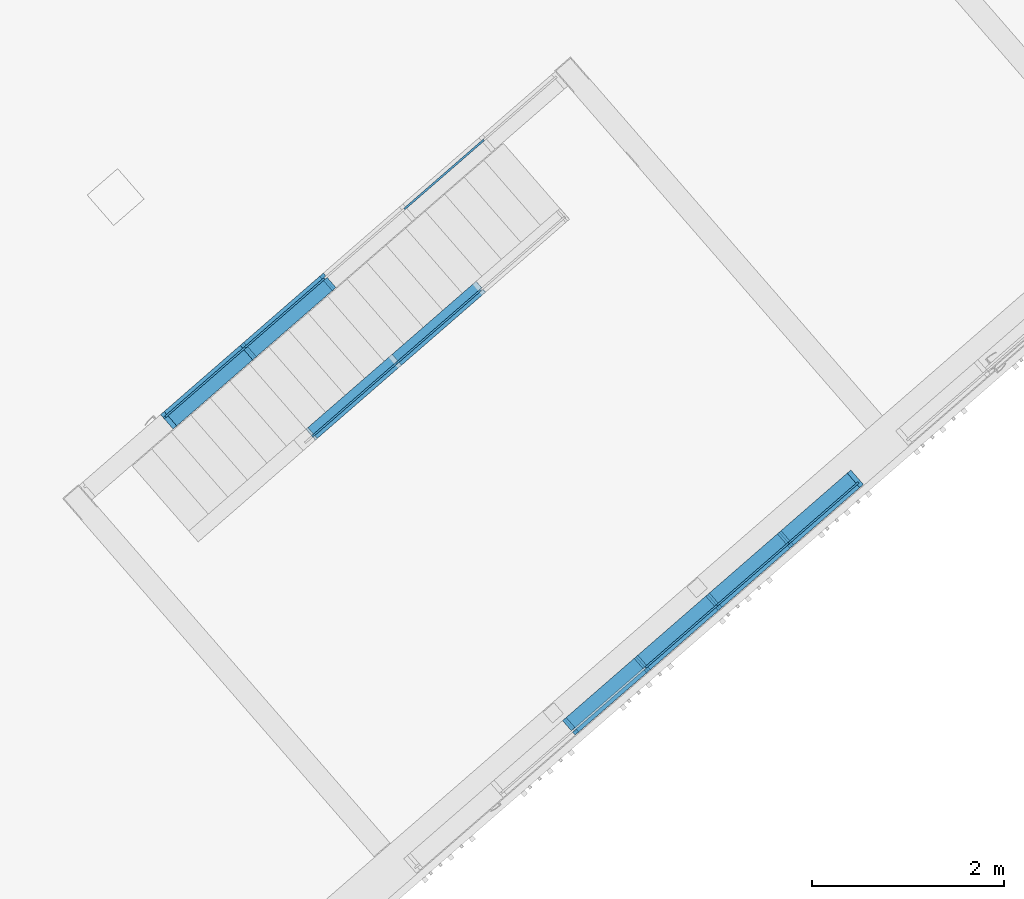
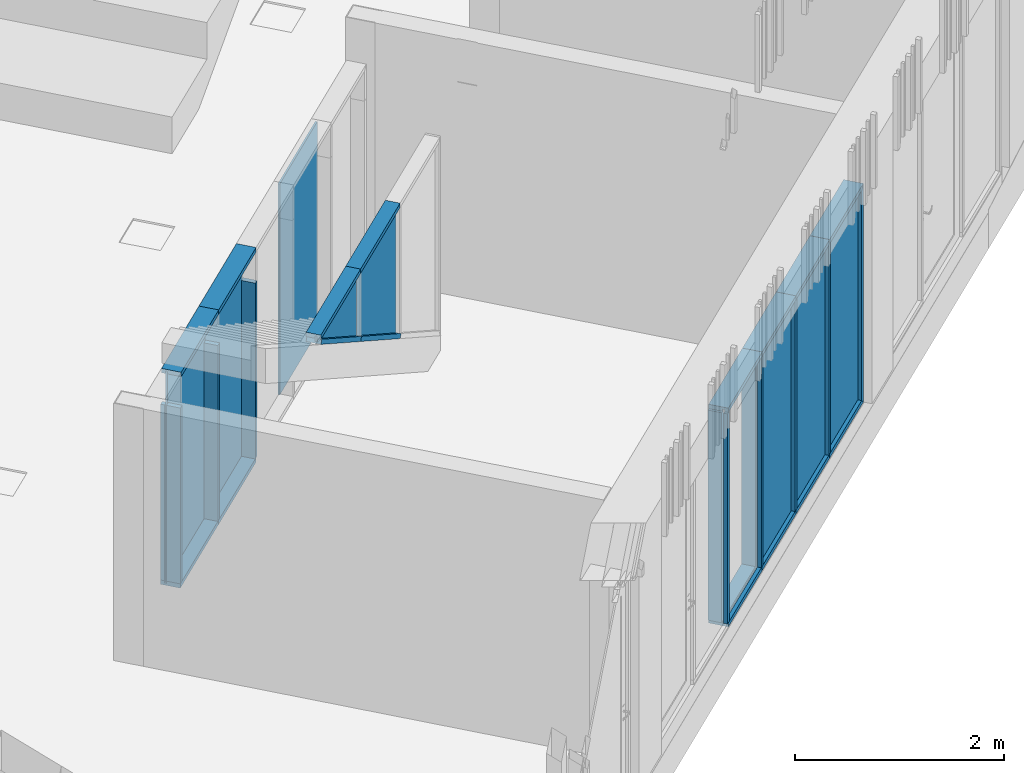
# One storey, part 8 of 124: 32 discrete accessories, 3 elements without a shape of their own.
"""IFC2X3 building model written with IfcOpenShell, lengths in millimetres."""

import ifcopenshell
import ifcopenshell.guid

model = None  # the IFC model being written
_history = None  # IfcOwnerHistory: only IFC2X3 demands one
_inside = {}  # id of a spatial element -> (the spatial element, [elements in it])
_under = {}  # id of a project, library or spatial element -> (it, [spatial elements below it])
_declared = {}  # id of a project -> (the project, [libraries it declares])
_typed = {}  # id of a type object -> (the type object, [elements of that type])
_made_of = {}  # id of a material, layer set ... -> (it, [elements and type objects made of it])


def new_model(schema):
    """Start an empty IFC model of exactly this schema.

    Asked for "IFC4X3", IfcOpenShell would pick the latest addendum, in which some entities
    have other attributes; the version numbers below select the first issue.
    IFC2X3 requires an IfcOwnerHistory on every rooted entity: one is made here for all.
    """
    global model, _history
    if schema == "IFC4X3":
        model = ifcopenshell.file(schema_version=(4, 3, 0, 0))
    else:
        model = ifcopenshell.file(schema=schema)
    _inside.clear()
    _under.clear()
    _declared.clear()
    _typed.clear()
    _made_of.clear()
    _history = None
    if model.schema == "IFC2X3":
        org = make("IfcOrganization", Name="unknown")
        user = make(
            "IfcPersonAndOrganization",
            ThePerson=make("IfcPerson", FamilyName="unknown"),
            TheOrganization=org,
        )
        app = make(
            "IfcApplication",
            ApplicationDeveloper=org,
            Version="unknown",
            ApplicationFullName="unknown",
            ApplicationIdentifier="unknown",
        )
        _history = make(
            "IfcOwnerHistory",
            OwningUser=user,
            OwningApplication=app,
            ChangeAction="ADDED",
            CreationDate=0,
        )
    return model


def make(cls, **values):
    """One entity of the class cls with the attributes given. An attribute that is None is left unset."""
    return model.create_entity(
        cls, **{name: value for name, value in values.items() if value is not None}
    )


def entity(cls, *values):
    """Any entity or typed value of the class cls, its attributes in the order of the schema. None: left unset."""
    e = model.create_entity(cls)
    for i, value in enumerate(values):
        if value is not None:
            e[i] = value
    return e


def rooted(cls, **values):
    """An entity with a GlobalId (a new one), such as an element, a storey or a relation."""
    return make(cls, GlobalId=ifcopenshell.guid.new(), OwnerHistory=_history, **values)


def si_unit(unit_type, name, prefix=None):
    """IfcSIUnit, for example si_unit("LENGTHUNIT", "METRE", prefix="MILLI")."""
    return make("IfcSIUnit", UnitType=unit_type, Prefix=prefix, Name=name)


def converted_unit(unit_type, name, factor, base, dimensions=None, offset=None):
    """IfcConversionBasedUnit, such as the inch: factor (a typed value) times the base unit."""
    return make(
        "IfcConversionBasedUnit"
        if offset is None
        else "IfcConversionBasedUnitWithOffset",
        ConversionOffset=offset,
        Dimensions=None
        if dimensions is None
        else entity("IfcDimensionalExponents", *dimensions),
        UnitType=unit_type,
        Name=name,
        ConversionFactor=make(
            "IfcMeasureWithUnit", ValueComponent=factor, UnitComponent=base
        ),
    )


def derived_unit(unit_type, elements):
    """IfcDerivedUnit: a product of units, each with its exponent."""
    return make(
        "IfcDerivedUnit",
        Elements=[
            make("IfcDerivedUnitElement", Unit=unit, Exponent=power)
            for unit, power in elements
        ],
        UnitType=unit_type,
    )


def money_unit(currency):
    """IfcMonetaryUnit."""
    return make("IfcMonetaryUnit", Currency=currency)


def assignment(units):
    """IfcUnitAssignment: the units of a project."""
    return None if units is None else make("IfcUnitAssignment", Units=units)


def point(xyz):
    """IfcCartesianPoint."""
    return None if xyz is None else make("IfcCartesianPoint", Coordinates=xyz)


def direction(xyz):
    """IfcDirection."""
    return None if xyz is None else make("IfcDirection", DirectionRatios=xyz)


def frame(location, z_axis=None, x_axis=None):
    """IfcAxis2Placement3D, a coordinate frame: its origin and axes. An axis left out is left unset."""
    return make(
        "IfcAxis2Placement3D",
        Location=point(location),
        Axis=direction(z_axis),
        RefDirection=direction(x_axis),
    )


def origin_with_axes():
    """The frame at (0, 0, 0) with the z axis (0, 0, 1) and the x axis (1, 0, 0) written out."""
    return frame((0.0, 0.0, 0.0), z_axis=(0.0, 0.0, 1.0), x_axis=(1.0, 0.0, 0.0))


def place(relative_to, where):
    """IfcLocalPlacement: puts the frame where relative to a parent placement (None: the world)."""
    return make(
        "IfcLocalPlacement", PlacementRelTo=relative_to, RelativePlacement=where
    )


def context(
    kind, dimensions, precision=None, world=None, true_north=None, identifier=None
):
    """IfcGeometricRepresentationContext, for example the 3D "Model" context."""
    return make(
        "IfcGeometricRepresentationContext",
        ContextIdentifier=identifier,
        ContextType=kind,
        CoordinateSpaceDimension=dimensions,
        Precision=precision,
        WorldCoordinateSystem=world,
        TrueNorth=true_north,
    )


def subcontext(parent, identifier, kind, view, scale=None):
    """IfcGeometricRepresentationSubContext, for example "Body" below "Model"."""
    return make(
        "IfcGeometricRepresentationSubContext",
        ContextIdentifier=identifier,
        ContextType=kind,
        ParentContext=parent,
        TargetScale=scale,
        TargetView=view,
    )


def project(units=None, contexts=None):
    """IfcProject with its units and contexts."""
    return rooted(
        "IfcProject",
        Name="project",
        RepresentationContexts=contexts,
        UnitsInContext=assignment(units),
    )


def spatial(cls, under=None, at=None, **own):
    """A site, building, storey or space (cls), placed at a placement, below another one or the project."""
    s = rooted(cls, ObjectPlacement=at, **own)
    if under is not None:
        _under.setdefault(under.id(), (under, []))[1].append(s)
    return s


def polyline(points):
    """IfcPolyline through the points."""
    return make("IfcPolyline", Points=[point(p) for p in points])


def outline(outer, holes=None, kind="AREA"):
    """IfcArbitraryClosedProfileDef: a profile drawn as a closed curve; with holes, ...WithVoids."""
    if holes is None:
        return make("IfcArbitraryClosedProfileDef", ProfileType=kind, OuterCurve=outer)
    return make(
        "IfcArbitraryProfileDefWithVoids",
        ProfileType=kind,
        OuterCurve=outer,
        InnerCurves=holes,
    )


def extrude(swept, where, along, depth):
    """IfcExtrudedAreaSolid: the profile swept, set in the frame where, extruded along a direction by depth."""
    return make(
        "IfcExtrudedAreaSolid",
        SweptArea=swept,
        Position=where,
        ExtrudedDirection=direction(along),
        Depth=depth,
    )


def clip(a, b, op="DIFFERENCE"):
    """IfcBooleanClippingResult: the solid a cut by the half space b."""
    return make(
        "IfcBooleanClippingResult", Operator=op, FirstOperand=a, SecondOperand=b
    )


def halfspace(plane, agree):
    """IfcHalfSpaceSolid: all space on one side of the plane z = 0 of the frame plane."""
    return make(
        "IfcHalfSpaceSolid",
        BaseSurface=make("IfcPlane", Position=plane),
        AgreementFlag=agree,
    )


def shape(context_of_items, identifier, shape_type, items):
    """IfcShapeRepresentation: the items that make up one representation, for example the "Body"."""
    return make(
        "IfcShapeRepresentation",
        ContextOfItems=context_of_items,
        RepresentationIdentifier=identifier,
        RepresentationType=shape_type,
        Items=items,
    )


def material(Name=None, Category=None):
    """IfcMaterial."""
    return make("IfcMaterial", Name=Name, Category=Category)


def material_list(materials):
    """IfcMaterialList."""
    return make("IfcMaterialList", Materials=materials)


def made_of(thing, what):
    """Note that an element or type object is made of a material, layer set ...; save() writes the relation."""
    if what is not None:
        _made_of.setdefault(what.id(), (what, []))[1].append(thing)
    return thing


def type_object(cls, material=None, **own):
    """A type object (cls), such as IfcWallType, which elements share."""
    return made_of(rooted(cls, **own), material)


def element(
    cls,
    number,
    at=None,
    inside=None,
    cuts=None,
    type_object=None,
    material=None,
    context=None,
    identifier="Body",
    shape_type=None,
    held_by="IfcProductDefinitionShape",
    body=None,
    shapes=None,
    **own,
):
    """One element of the class cls, such as IfcWall. Its Tag is "e" and its number.

    at: its placement. inside: the storey or other place that contains it. cuts: it is an
    opening in that element (IfcRelVoidsElement). A single representation is given by context,
    identifier, shape_type and body (its items); several are given by shapes. held_by: the class
    of the entity that holds the representations. save() writes the other relations.
    """
    e = rooted(cls, Tag="e%d" % number, ObjectPlacement=at, **own)
    if body is not None:
        shapes = [shape(context, identifier, shape_type, body)]
    if shapes is not None:
        e.Representation = make(held_by, Representations=shapes)
    if inside is not None:
        _inside.setdefault(inside.id(), (inside, []))[1].append(e)
    if cuts is not None:
        rooted(
            "IfcRelVoidsElement", RelatingBuildingElement=cuts, RelatedOpeningElement=e
        )
    if type_object is not None:
        _typed.setdefault(type_object.id(), (type_object, []))[1].append(e)
    return made_of(e, material)


def aggregate(whole, parts):
    """IfcRelAggregates: a whole, such as a stair, and the parts it consists of."""
    return rooted("IfcRelAggregates", RelatingObject=whole, RelatedObjects=parts)


def save(model, path):
    """Write the relations noted so far, then the file.

    IfcRelAggregates (storeys below a building ...), IfcRelContainedInSpatialStructure (elements
    in a storey), IfcRelDefinesByType, IfcRelAssociatesMaterial and IfcRelDeclares: one each for
    every whole, place, type object, material and project.
    """
    for whole, parts in _under.values():
        aggregate(whole, parts)
    for where, things in _inside.values():
        rooted(
            "IfcRelContainedInSpatialStructure",
            RelatedElements=things,
            RelatingStructure=where,
        )
    for kind, things in _typed.values():
        rooted("IfcRelDefinesByType", RelatedObjects=things, RelatingType=kind)
    for what, things in _made_of.values():
        rooted("IfcRelAssociatesMaterial", RelatedObjects=things, RelatingMaterial=what)
    for by, libraries in _declared.values():
        rooted("IfcRelDeclares", RelatingContext=by, RelatedDefinitions=libraries)
    model.write(path)


model = new_model("IFC2X3")

# Units and contexts
model_context = context("Model", 3, precision=1e-05, world=origin_with_axes(), true_north=direction((0.0, 1.0)))
body_context = subcontext(model_context, "Body", "Model", "MODEL_VIEW")
ifc_project = project(units=[si_unit("LENGTHUNIT", "METRE", prefix="MILLI"), si_unit("AREAUNIT", "SQUARE_METRE"), si_unit("VOLUMEUNIT", "CUBIC_METRE"), converted_unit("PLANEANGLEUNIT", "DEGREE", entity("IfcPlaneAngleMeasure", 0.0174532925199), si_unit("PLANEANGLEUNIT", "RADIAN"), dimensions=[0, 0, 0, 0, 0, 0, 0]), si_unit("SOLIDANGLEUNIT", "STERADIAN"), money_unit("EUR"), converted_unit("TIMEUNIT", "Year", entity("IfcTimeMeasure", 31556926.0), si_unit("TIMEUNIT", "SECOND"), dimensions=[0, 0, 1, 0, 0, 0, 0]), si_unit("MASSUNIT", "GRAM", prefix="KILO"), si_unit("THERMODYNAMICTEMPERATUREUNIT", "DEGREE_CELSIUS"), si_unit("LUMINOUSINTENSITYUNIT", "LUMEN"), si_unit("ENERGYUNIT", "JOULE", prefix="MEGA"), derived_unit("THERMALCONDUCTANCEUNIT", [(si_unit("POWERUNIT", "WATT"), 1), (si_unit("LENGTHUNIT", "METRE"), -1), (si_unit("THERMODYNAMICTEMPERATUREUNIT", "KELVIN"), -1)]), derived_unit("SPECIFICHEATCAPACITYUNIT", [(si_unit("ENERGYUNIT", "JOULE"), 1), (si_unit("MASSUNIT", "GRAM", prefix="KILO"), -1), (si_unit("THERMODYNAMICTEMPERATUREUNIT", "KELVIN"), -1)]), derived_unit("MASSDENSITYUNIT", [(si_unit("MASSUNIT", "GRAM", prefix="KILO"), 1), (si_unit("VOLUMEUNIT", "CUBIC_METRE"), -1)])], contexts=[model_context])

# Site, building, storey
site_placement = place(None, origin_with_axes())
site = spatial("IfcSite", under=ifc_project, at=site_placement, Name="Site", CompositionType="ELEMENT")
building_placement = place(site_placement, origin_with_axes())
building = spatial("IfcBuilding", under=site, at=building_placement, Name="Building", CompositionType="ELEMENT")
storey_placement = place(building_placement, frame((0.0, 0.0, -1615.0), z_axis=(0.0, 0.0, 1.0), x_axis=(1.0, 0.0, 0.0)))
storey = spatial("IfcBuildingStorey", under=building, at=storey_placement, Name="0  korrus", CompositionType="ELEMENT", Elevation=-1615.0)

# Curtain wall, discrete accessories
curtain_wall_type_1 = type_object("IfcCurtainWallType", Name="KLF-04", PredefinedType="NOTDEFINED")
curtain_wall_1_placement = place(storey_placement, frame((162346.343492, 85970.7645105, 0.0), z_axis=(0.0, 0.0, 1.0), x_axis=(1.0, 0.0, 0.0)))
curtain_wall_1 = element("IfcCurtainWall", 1, at=curtain_wall_1_placement, inside=storey, type_object=curtain_wall_type_1, Name="Klaasfassaad")
discrete_accessory_type_1 = type_object("IfcDiscreteAccessoryType", Name="50 x 200")
discrete_accessory_1_placement = place(curtain_wall_1_placement, frame((-2615.07690297, -2273.23509377, 2550.00001132), z_axis=(0.754711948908, 0.65605630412, 0.0), x_axis=(0.0, 0.0, 1.0)))
discrete_accessory_1 = element("IfcDiscreteAccessory", 2, at=discrete_accessory_1_placement, type_object=discrete_accessory_type_1, Name="KLF-04 profiil", context=body_context, shape_type="SweptSolid", body=[
    extrude(outline(polyline([(-10.0, 25.0), (-10.0, 0.0), (10.0, 0.0), (10.0, 25.0), (-10.0, 25.0)])), frame((0.0, 0.0, 0.0), z_axis=(0.0, 0.0, 1.0), x_axis=(0.0, 1.0, 0.0)), (0.0, 0.0, 1.0), 990.0),
    extrude(outline(polyline([(-150.0, 50.0), (-150.0, 0.0), (-10.0, 0.0), (-10.0, 50.0), (-150.0, 50.0)])), frame((0.0, 0.0, 0.0), z_axis=(0.0, 0.0, 1.0), x_axis=(0.0, 1.0, 0.0)), (0.0, 0.0, 1.0), 990.0),
    extrude(outline(polyline([(50.0, 0.0), (50.0, 50.0), (10.0, 50.0), (10.0, 0.0), (50.0, 0.0)])), frame((0.0, 0.0, 0.0), z_axis=(0.0, 0.0, 1.0), x_axis=(0.0, 1.0, 0.0)), (0.0, 0.0, 1.0), 990.0),
])
discrete_accessory_2_placement = place(curtain_wall_1_placement, frame((-373.58241471, -324.747870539, 0.0), z_axis=(0.754711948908, 0.65605630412, 0.0), x_axis=(0.0, 0.0, 1.0)))
discrete_accessory_2 = element("IfcDiscreteAccessory", 3, at=discrete_accessory_2_placement, type_object=discrete_accessory_type_1, Name="KLF-04 profiil", context=body_context, shape_type="Clipping", body=[
    clip(extrude(outline(polyline([(-10.0, -25.0), (9.99999999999, -25.0), (10.0, 0.0), (-10.0, 0.0), (-10.0, -25.0)])), frame((0.0, 0.0, 0.0), z_axis=(0.0, 0.0, 1.0), x_axis=(0.0, 1.0, 0.0)), (0.0, 0.0, 1.0), 990.0), halfspace(frame((495.0, 0.0, 495.0), z_axis=(-0.707106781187, 0.0, -0.707106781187), x_axis=(0.0, 1.0, 0.0)), True)),
    clip(extrude(outline(polyline([(-150.0, -50.0), (-10.0, -50.0), (-10.0, 0.0), (-150.0, 0.0), (-150.0, -50.0)])), frame((0.0, 0.0, 0.0), z_axis=(0.0, 0.0, 1.0), x_axis=(0.0, 1.0, 0.0)), (0.0, 0.0, 1.0), 990.0), halfspace(frame((495.0, 0.0, 495.0), z_axis=(-0.707106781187, 0.0, -0.707106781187), x_axis=(0.0, 1.0, 0.0)), True)),
    clip(extrude(outline(polyline([(50.0, 0.0), (10.0, 0.0), (9.99999999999, -50.0), (50.0, -50.0), (50.0, 0.0)])), frame((0.0, 0.0, 0.0), z_axis=(0.0, 0.0, 1.0), x_axis=(0.0, 1.0, 0.0)), (0.0, 0.0, 1.0), 990.0), halfspace(frame((495.0, 0.0, 495.0), z_axis=(-0.707106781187, 0.0, -0.707106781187), x_axis=(0.0, 1.0, 0.0)), True)),
])
discrete_accessory_3_placement = place(curtain_wall_1_placement, frame((-2615.07690297, -2273.23509377, 0.0), z_axis=(0.754711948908, 0.65605630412, 0.0), x_axis=(0.0, 0.0, 1.0)))
discrete_accessory_3 = element("IfcDiscreteAccessory", 4, at=discrete_accessory_3_placement, type_object=discrete_accessory_type_1, Name="KLF-04 profiil", context=body_context, shape_type="SweptSolid", body=[
    extrude(outline(polyline([(-10.0, -25.0), (10.0, -25.0), (10.0, 0.0), (-10.0, 0.0), (-10.0, -25.0)])), frame((0.0, 0.0, 0.0), z_axis=(0.0, 0.0, 1.0), x_axis=(0.0, 1.0, 0.0)), (0.0, 0.0, 1.0), 990.0),
    extrude(outline(polyline([(-150.0, -50.0), (-10.0, -50.0), (-10.0, 0.0), (-150.0, 0.0), (-150.0, -50.0)])), frame((0.0, 0.0, 0.0), z_axis=(0.0, 0.0, 1.0), x_axis=(0.0, 1.0, 0.0)), (0.0, 0.0, 1.0), 990.0),
    extrude(outline(polyline([(50.0, 0.0), (10.0, 0.0), (10.0, -50.0), (50.0, -50.0), (50.0, 0.0)])), frame((0.0, 0.0, 0.0), z_axis=(0.0, 0.0, 1.0), x_axis=(0.0, 1.0, 0.0)), (0.0, 0.0, 1.0), 990.0),
])
ifc_material_1 = material(Name="Aluminium MUST")
ifc_material_list = material_list([ifc_material_1, ifc_material_1])
discrete_accessory_4_placement = place(curtain_wall_1_placement, frame((-2615.07690297, -2273.23509377, 0.0), z_axis=(0.0, 0.0, 1.0), x_axis=(-0.754711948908, -0.65605630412, 0.0)))
discrete_accessory_4 = element("IfcDiscreteAccessory", 5, at=discrete_accessory_4_placement, type_object=discrete_accessory_type_1, material=ifc_material_list, Name="KLF-04 profiil", context=body_context, shape_type="SweptSolid", body=[
    extrude(outline(polyline([(12.3072356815, 23.9485270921), (-79.5406468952, 129.608199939), (-117.276244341, 96.8053847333), (-25.4283617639, -8.85428811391), (12.3072356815, 23.9485270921)])), frame((0.0, 0.0, 50.0), z_axis=(0.0, 0.0, 1.0), x_axis=(-0.754711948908, 0.65605630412, 0.0)), (0.0, 0.0, 1.0), 2450.00001132),
    extrude(outline(polyline([(25.4283617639, 8.85428811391), (-12.3072356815, -23.9485270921), (13.9350164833, -54.1370050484), (51.6706139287, -21.3341898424), (25.4283617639, 8.85428811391)])), frame((0.0, 0.0, 50.0), z_axis=(0.0, 0.0, 1.0), x_axis=(-0.754711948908, 0.65605630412, 0.0)), (0.0, 0.0, 1.0), 2450.00001132),
])
discrete_accessory_5_placement = place(curtain_wall_1_placement, frame((-1867.91207355, -1623.7393527, 0.0), z_axis=(0.754711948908, 0.65605630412, 0.0), x_axis=(0.0, 0.0, 1.0)))
discrete_accessory_5 = element("IfcDiscreteAccessory", 6, at=discrete_accessory_5_placement, type_object=discrete_accessory_type_1, Name="KLF-04 profiil", context=body_context, shape_type="SweptSolid", body=[
    extrude(outline(polyline([(-10.0, -25.0), (10.0, -25.0), (10.0, 0.0), (-10.0, 0.0), (-10.0, -25.0)])), frame((0.0, 0.0, 0.0), z_axis=(0.0, 0.0, 1.0), x_axis=(0.0, 1.0, 0.0)), (0.0, 0.0, 1.0), 990.0),
    extrude(outline(polyline([(-150.0, -50.0), (-10.0, -50.0), (-10.0, 0.0), (-150.0, 0.0), (-150.0, -50.0)])), frame((0.0, 0.0, 0.0), z_axis=(0.0, 0.0, 1.0), x_axis=(0.0, 1.0, 0.0)), (0.0, 0.0, 1.0), 990.0),
    extrude(outline(polyline([(50.0, 0.0), (10.0, 0.0), (10.0, -50.0), (50.0, -50.0), (50.0, 0.0)])), frame((0.0, 0.0, 0.0), z_axis=(0.0, 0.0, 1.0), x_axis=(0.0, 1.0, 0.0)), (0.0, 0.0, 1.0), 990.0),
])
discrete_accessory_6_placement = place(curtain_wall_1_placement, frame((-1867.91207355, -1623.7393527, 0.0), z_axis=(0.0, 0.0, 1.0), x_axis=(-0.754711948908, -0.65605630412, 0.0)))
discrete_accessory_6 = element("IfcDiscreteAccessory", 7, at=discrete_accessory_6_placement, type_object=discrete_accessory_type_1, material=ifc_material_list, Name="KLF-04 profiil", context=body_context, shape_type="SweptSolid", body=[
    extrude(outline(polyline([(12.3072356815, 23.9485270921), (-79.5406468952, 129.608199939), (-117.276244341, 96.8053847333), (-25.4283617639, -8.85428811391), (12.3072356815, 23.9485270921)])), frame((0.0, 0.0, 50.0), z_axis=(0.0, 0.0, 1.0), x_axis=(-0.754711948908, 0.65605630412, 0.0)), (0.0, 0.0, 1.0), 2450.00001132),
    extrude(outline(polyline([(25.4283617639, 8.85428811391), (-12.3072356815, -23.9485270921), (13.9350164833, -54.1370050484), (51.6706139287, -21.3341898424), (25.4283617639, 8.85428811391)])), frame((0.0, 0.0, 50.0), z_axis=(0.0, 0.0, 1.0), x_axis=(-0.754711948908, 0.65605630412, 0.0)), (0.0, 0.0, 1.0), 2450.00001132),
])
discrete_accessory_7_placement = place(curtain_wall_1_placement, frame((-1120.74724413, -974.243611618, 0.0), z_axis=(0.754711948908, 0.65605630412, 0.0), x_axis=(0.0, 0.0, 1.0)))
discrete_accessory_7 = element("IfcDiscreteAccessory", 8, at=discrete_accessory_7_placement, type_object=discrete_accessory_type_1, Name="KLF-04 profiil", context=body_context, shape_type="SweptSolid", body=[
    extrude(outline(polyline([(-9.99999999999, -25.0), (10.0, -25.0), (10.0, 0.0), (-9.99999999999, 0.0), (-9.99999999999, -25.0)])), frame((0.0, 0.0, 0.0), z_axis=(0.0, 0.0, 1.0), x_axis=(0.0, 1.0, 0.0)), (0.0, 0.0, 1.0), 990.0),
    extrude(outline(polyline([(-150.0, -50.0), (-9.99999999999, -50.0), (-9.99999999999, 0.0), (-150.0, 0.0), (-150.0, -50.0)])), frame((0.0, 0.0, 0.0), z_axis=(0.0, 0.0, 1.0), x_axis=(0.0, 1.0, 0.0)), (0.0, 0.0, 1.0), 990.0),
    extrude(outline(polyline([(50.0, 0.0), (10.0, 0.0), (10.0, -50.0), (50.0, -50.0), (50.0, 0.0)])), frame((0.0, 0.0, 0.0), z_axis=(0.0, 0.0, 1.0), x_axis=(0.0, 1.0, 0.0)), (0.0, 0.0, 1.0), 990.0),
])
discrete_accessory_8_placement = place(curtain_wall_1_placement, frame((-1120.74724413, -974.243611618, 0.0), z_axis=(0.0, 0.0, 1.0), x_axis=(-0.754711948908, -0.65605630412, 0.0)))
discrete_accessory_8 = element("IfcDiscreteAccessory", 9, at=discrete_accessory_8_placement, type_object=discrete_accessory_type_1, material=ifc_material_list, Name="KLF-04 profiil", context=body_context, shape_type="SweptSolid", body=[
    extrude(outline(polyline([(12.3072356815, 23.9485270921), (-79.5406468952, 129.608199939), (-117.276244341, 96.8053847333), (-25.4283617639, -8.85428811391), (12.3072356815, 23.9485270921)])), frame((0.0, 0.0, 50.0), z_axis=(0.0, 0.0, 1.0), x_axis=(-0.754711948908, 0.65605630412, 0.0)), (0.0, 0.0, 1.0), 2450.00001132),
    extrude(outline(polyline([(25.4283617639, 8.85428811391), (-12.3072356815, -23.9485270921), (13.9350164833, -54.1370050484), (51.6706139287, -21.3341898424), (25.4283617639, 8.85428811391)])), frame((0.0, 0.0, 50.0), z_axis=(0.0, 0.0, 1.0), x_axis=(-0.754711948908, 0.65605630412, 0.0)), (0.0, 0.0, 1.0), 2450.00001132),
])
discrete_accessory_9_placement = place(curtain_wall_1_placement, frame((-1120.74724413, -974.243611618, 2550.00001132), z_axis=(0.754711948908, 0.65605630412, 0.0), x_axis=(0.0, 0.0, 1.0)))
discrete_accessory_9 = element("IfcDiscreteAccessory", 10, at=discrete_accessory_9_placement, type_object=discrete_accessory_type_1, Name="KLF-04 profiil", context=body_context, shape_type="SweptSolid", body=[
    extrude(outline(polyline([(-9.99999999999, 25.0), (-9.99999999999, 0.0), (10.0, 0.0), (10.0, 25.0), (-9.99999999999, 25.0)])), frame((0.0, 0.0, 0.0), z_axis=(0.0, 0.0, 1.0), x_axis=(0.0, 1.0, 0.0)), (0.0, 0.0, 1.0), 990.0),
    extrude(outline(polyline([(-150.0, 50.0), (-150.0, 0.0), (-9.99999999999, 0.0), (-9.99999999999, 50.0), (-150.0, 50.0)])), frame((0.0, 0.0, 0.0), z_axis=(0.0, 0.0, 1.0), x_axis=(0.0, 1.0, 0.0)), (0.0, 0.0, 1.0), 990.0),
    extrude(outline(polyline([(50.0, 0.0), (50.0, 50.0), (10.0, 50.0), (10.0, 0.0), (50.0, 0.0)])), frame((0.0, 0.0, 0.0), z_axis=(0.0, 0.0, 1.0), x_axis=(0.0, 1.0, 0.0)), (0.0, 0.0, 1.0), 990.0),
])
discrete_accessory_10_placement = place(curtain_wall_1_placement, frame((-373.58241471, -324.747870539, 0.0), z_axis=(0.0, 0.0, 1.0), x_axis=(-0.754711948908, -0.65605630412, 0.0)))
discrete_accessory_10 = element("IfcDiscreteAccessory", 11, at=discrete_accessory_10_placement, type_object=discrete_accessory_type_1, material=ifc_material_list, Name="KLF-04 profiil", context=body_context, shape_type="SweptSolid", body=[
    extrude(outline(polyline([(12.3072356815, 23.9485270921), (-79.5406468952, 129.608199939), (-117.276244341, 96.8053847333), (-25.4283617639, -8.85428811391), (12.3072356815, 23.9485270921)])), frame((0.0, 0.0, 50.0), z_axis=(0.0, 0.0, 1.0), x_axis=(-0.754711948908, 0.65605630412, 0.0)), (0.0, 0.0, 1.0), 2450.00001132),
    extrude(outline(polyline([(25.4283617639, 8.85428811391), (-12.3072356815, -23.9485270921), (13.9350164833, -54.1370050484), (51.6706139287, -21.3341898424), (25.4283617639, 8.85428811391)])), frame((0.0, 0.0, 50.0), z_axis=(0.0, 0.0, 1.0), x_axis=(-0.754711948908, 0.65605630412, 0.0)), (0.0, 0.0, 1.0), 2450.00001132),
])
discrete_accessory_11_placement = place(curtain_wall_1_placement, frame((-1867.91207355, -1623.7393527, 2550.00001132), z_axis=(0.754711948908, 0.65605630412, 0.0), x_axis=(0.0, 0.0, 1.0)))
discrete_accessory_11 = element("IfcDiscreteAccessory", 12, at=discrete_accessory_11_placement, type_object=discrete_accessory_type_1, Name="KLF-04 profiil", context=body_context, shape_type="SweptSolid", body=[
    extrude(outline(polyline([(-10.0, 25.0), (-10.0, 0.0), (10.0, 0.0), (10.0, 25.0), (-10.0, 25.0)])), frame((0.0, 0.0, 0.0), z_axis=(0.0, 0.0, 1.0), x_axis=(0.0, 1.0, 0.0)), (0.0, 0.0, 1.0), 990.0),
    extrude(outline(polyline([(-150.0, 50.0), (-150.0, 0.0), (-10.0, 0.0), (-10.0, 50.0), (-150.0, 50.0)])), frame((0.0, 0.0, 0.0), z_axis=(0.0, 0.0, 1.0), x_axis=(0.0, 1.0, 0.0)), (0.0, 0.0, 1.0), 990.0),
    extrude(outline(polyline([(50.0, 0.0), (50.0, 50.0), (10.0, 50.0), (10.0, 0.0), (50.0, 0.0)])), frame((0.0, 0.0, 0.0), z_axis=(0.0, 0.0, 1.0), x_axis=(0.0, 1.0, 0.0)), (0.0, 0.0, 1.0), 990.0),
])
discrete_accessory_12_placement = place(curtain_wall_1_placement, frame((-373.58241471, -324.747870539, 2550.00001132), z_axis=(0.754711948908, 0.65605630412, 0.0), x_axis=(0.0, 0.0, 1.0)))
discrete_accessory_12 = element("IfcDiscreteAccessory", 13, at=discrete_accessory_12_placement, type_object=discrete_accessory_type_1, Name="KLF-04 profiil", context=body_context, shape_type="Clipping", body=[
    clip(extrude(outline(polyline([(-10.0, 25.0), (-10.0, 0.0), (10.0, 0.0), (9.99999999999, 25.0), (-10.0, 25.0)])), frame((0.0, 0.0, 0.0), z_axis=(0.0, 0.0, 1.0), x_axis=(0.0, 1.0, 0.0)), (0.0, 0.0, 1.0), 990.0), halfspace(frame((-495.0, 0.0, 495.0), z_axis=(0.707106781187, 0.0, -0.707106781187), x_axis=(0.0, 1.0, 0.0)), True)),
    clip(extrude(outline(polyline([(-150.0, 50.0), (-150.0, 0.0), (-10.0, 0.0), (-10.0, 50.0), (-150.0, 50.0)])), frame((0.0, 0.0, 0.0), z_axis=(0.0, 0.0, 1.0), x_axis=(0.0, 1.0, 0.0)), (0.0, 0.0, 1.0), 990.0), halfspace(frame((-495.0, 0.0, 495.0), z_axis=(0.707106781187, 0.0, -0.707106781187), x_axis=(0.0, 1.0, 0.0)), True)),
    clip(extrude(outline(polyline([(50.0, 0.0), (50.0, 50.0), (9.99999999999, 50.0), (10.0, 0.0), (50.0, 0.0)])), frame((0.0, 0.0, 0.0), z_axis=(0.0, 0.0, 1.0), x_axis=(0.0, 1.0, 0.0)), (0.0, 0.0, 1.0), 990.0), halfspace(frame((-495.0, 0.0, 495.0), z_axis=(0.707106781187, 0.0, -0.707106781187), x_axis=(0.0, 1.0, 0.0)), True)),
])
discrete_accessory_13_placement = place(curtain_wall_1_placement, frame((373.58241471, 324.747870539, 0.0), z_axis=(0.0, 0.0, 1.0), x_axis=(-0.754711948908, -0.65605630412, 0.0)))
discrete_accessory_13 = element("IfcDiscreteAccessory", 14, at=discrete_accessory_13_placement, type_object=discrete_accessory_type_1, Name="KLF-04 profiil", context=body_context, shape_type="Clipping", body=[
    clip(clip(extrude(outline(polyline([(-25.4283617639, -8.85428811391), (-12.3072356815, -23.9485270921), (6.56056304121, -7.54711948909), (-6.56056304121, 7.54711948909), (-25.4283617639, -8.85428811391)])), frame((0.0, 0.0, 0.0), z_axis=(0.0, 0.0, 1.0), x_axis=(-0.754711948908, 0.65605630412, 0.0)), (0.0, 0.0, 1.0), 2550.00001132), halfspace(frame((1275.00000566, 0.0, 1275.00000566), z_axis=(-0.707106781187, 0.0, -0.707106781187), x_axis=(0.0, 1.0, 0.0)), True)), halfspace(frame((0.0, 0.0, 0.0), z_axis=(-0.707106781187, 0.0, 0.707106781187), x_axis=(0.0, -1.0, 0.0)), True)),
    clip(clip(extrude(outline(polyline([(-136.144043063, 80.4039771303), (-44.2961604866, -25.2556957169), (-6.56056304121, 7.54711948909), (-98.4084456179, 113.206792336), (-136.144043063, 80.4039771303)])), frame((0.0, 0.0, 0.0), z_axis=(0.0, 0.0, 1.0), x_axis=(-0.754711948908, 0.65605630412, 0.0)), (0.0, 0.0, 1.0), 2550.00001132), halfspace(frame((1275.00000566, 0.0, 1275.00000566), z_axis=(-0.707106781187, 0.0, -0.707106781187), x_axis=(0.0, 1.0, 0.0)), True)), halfspace(frame((0.0, 0.0, 0.0), z_axis=(-0.707106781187, 0.0, 0.707106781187), x_axis=(0.0, -1.0, 0.0)), True)),
    clip(clip(extrude(outline(polyline([(32.802815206, -37.7355974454), (6.56056304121, -7.54711948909), (-31.1750344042, -40.3499346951), (-4.93278223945, -70.5384126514), (32.802815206, -37.7355974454)])), frame((0.0, 0.0, 0.0), z_axis=(0.0, 0.0, 1.0), x_axis=(-0.754711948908, 0.65605630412, 0.0)), (0.0, 0.0, 1.0), 2550.00001132), halfspace(frame((1275.00000566, 0.0, 1275.00000566), z_axis=(-0.707106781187, 0.0, -0.707106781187), x_axis=(0.0, 1.0, 0.0)), True)), halfspace(frame((0.0, 0.0, 0.0), z_axis=(-0.707106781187, 0.0, 0.707106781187), x_axis=(0.0, -1.0, 0.0)), True)),
])
ifc_material_2 = material(Name="Klaas")
discrete_accessory_type_2 = type_object("IfcDiscreteAccessoryType", Name="Distinct Panel 970 x 2510 x 20")
discrete_accessory_14_placement = place(curtain_wall_1_placement, frame((0.0, 0.0, 1275.00000566), z_axis=(0.0, 0.0, 1.0), x_axis=(-0.754711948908, -0.65605630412, 0.0)))
discrete_accessory_14 = element("IfcDiscreteAccessory", 15, at=discrete_accessory_14_placement, type_object=discrete_accessory_type_2, material=ifc_material_2, Name="KLF-04 klaaspakett", context=body_context, shape_type="SweptSolid", body=[
    extrude(outline(polyline([(-474.999997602, -1254.99998769), (495.0, -1254.99998769), (495.0, 1254.99998769), (-474.999997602, 1254.99998769), (-474.999997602, -1254.99998769)])), frame((0.0, -10.0, 0.0), z_axis=(0.0, 1.0, 0.0), x_axis=(1.0, 0.0, 0.0)), (0.0, 0.0, 1.0), 20.0),
])
discrete_accessory_type_3 = type_object("IfcDiscreteAccessoryType", Name="Distinct Panel 990 x 2510 x 20")
discrete_accessory_15_placement = place(curtain_wall_1_placement, frame((-1494.32965884, -1298.99148216, 1275.00000566), z_axis=(0.0, 0.0, 1.0), x_axis=(-0.754711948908, -0.65605630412, 0.0)))
discrete_accessory_15 = element("IfcDiscreteAccessory", 16, at=discrete_accessory_15_placement, type_object=discrete_accessory_type_3, material=ifc_material_2, Name="KLF-04 klaaspakett", context=body_context, shape_type="SweptSolid", body=[
    extrude(outline(polyline([(-495.000020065, -1254.99998769), (494.999995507, -1254.99998769), (494.999995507, 1254.99998769), (-495.000020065, 1254.99998769), (-495.000020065, -1254.99998769)])), frame((0.0, -10.0, 0.0), z_axis=(0.0, 1.0, 0.0), x_axis=(1.0, 0.0, 0.0)), (0.0, 0.0, 1.0), 20.0),
])
discrete_accessory_16_placement = place(curtain_wall_1_placement, frame((-747.164829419, -649.495741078, 1275.00000566), z_axis=(0.0, 0.0, 1.0), x_axis=(-0.754711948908, -0.65605630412, 0.0)))
discrete_accessory_16 = element("IfcDiscreteAccessory", 17, at=discrete_accessory_16_placement, type_object=discrete_accessory_type_3, material=ifc_material_2, Name="KLF-04 klaaspakett", context=body_context, shape_type="SweptSolid", body=[
    extrude(outline(polyline([(-495.000020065, -1254.99998769), (494.999995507, -1254.99998769), (494.999995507, 1254.99998769), (-495.000020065, 1254.99998769), (-495.000020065, -1254.99998769)])), frame((0.0, -10.0, 0.0), z_axis=(0.0, 1.0, 0.0), x_axis=(1.0, 0.0, 0.0)), (0.0, 0.0, 1.0), 20.0),
])
aggregate(curtain_wall_1, [discrete_accessory_14, discrete_accessory_15, discrete_accessory_16, discrete_accessory_1, discrete_accessory_2, discrete_accessory_3, discrete_accessory_4, discrete_accessory_5, discrete_accessory_6, discrete_accessory_7, discrete_accessory_8, discrete_accessory_9, discrete_accessory_10, discrete_accessory_11, discrete_accessory_12, discrete_accessory_13])

curtain_wall_type_2 = type_object("IfcCurtainWallType", Name="KS-14", PredefinedType="NOTDEFINED")
curtain_wall_2_placement = place(storey_placement, frame((158378.483684, 89491.1525306, -3.95351700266e-05), z_axis=(0.0, 0.0, 1.0), x_axis=(1.0, 0.0, 0.0)))
curtain_wall_2 = element("IfcCurtainWall", 18, at=curtain_wall_2_placement, inside=storey, type_object=curtain_wall_type_2, Name="Klaas-sein")
discrete_accessory_type_4 = type_object("IfcDiscreteAccessoryType", Name="Distinct Panel 1100 x 380 x 20")
discrete_accessory_17_placement = place(curtain_wall_2_placement, frame((0.0, 0.0, 1533.33337045), z_axis=(0.0, 0.0, 1.0), x_axis=(0.754709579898, 0.656059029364, 0.0)))
discrete_accessory_17 = element("IfcDiscreteAccessory", 19, at=discrete_accessory_17_placement, type_object=discrete_accessory_type_4, material=ifc_material_2, Name="KS-14 klaaspakett", context=body_context, shape_type="SweptSolid", body=[
    extrude(outline(polyline([(-550.000009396, -946.666715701), (549.999984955, -946.666715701), (549.999984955, 1513.33338478), (-550.000009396, 1513.33338478), (-550.000009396, -946.666715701)])), frame((0.0, -10.0, 0.0), z_axis=(0.0, 1.0, 0.0), x_axis=(1.0, 0.0, 0.0)), (0.0, 0.0, 1.0), 20.0),
])
discrete_accessory_18_placement = place(curtain_wall_2_placement, frame((-2490.54161366, -2164.9947969, 1533.33337045), z_axis=(0.0, 0.0, 1.0), x_axis=(0.754709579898, 0.656059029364, 0.0)))
discrete_accessory_18 = element("IfcDiscreteAccessory", 20, at=discrete_accessory_18_placement, type_object=discrete_accessory_type_4, material=ifc_material_2, Name="KS-14 klaaspakett", context=body_context, shape_type="SweptSolid", body=[
    extrude(outline(polyline([(-549.999994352, -946.666715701), (550.0, -946.666715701), (550.0, 1513.33338478), (-549.999994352, 1513.33338478), (-549.999994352, -946.666715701)])), frame((0.0, -10.0, 0.0), z_axis=(0.0, 1.0, 0.0), x_axis=(1.0, 0.0, 0.0)), (0.0, 0.0, 1.0), 20.0),
])
discrete_accessory_19_placement = place(curtain_wall_2_placement, frame((-1660.36107578, -1443.3298646, 1533.33337045), z_axis=(0.0, 0.0, 1.0), x_axis=(0.754709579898, 0.656059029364, 0.0)))
discrete_accessory_19 = element("IfcDiscreteAccessory", 21, at=discrete_accessory_19_placement, type_object=discrete_accessory_type_4, material=ifc_material_2, Name="KS-14 klaaspakett", context=body_context, shape_type="SweptSolid", body=[
    extrude(outline(polyline([(-549.999994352, -946.666715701), (550.0, -946.666715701), (550.0, 1513.33338478), (-549.999994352, 1513.33338478), (-549.999994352, -946.666715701)])), frame((0.0, -10.0, 0.0), z_axis=(0.0, 1.0, 0.0), x_axis=(1.0, 0.0, 0.0)), (0.0, 0.0, 1.0), 20.0),
])
discrete_accessory_type_5 = type_object("IfcDiscreteAccessoryType", Name="50 x 200")
discrete_accessory_20_placement = place(curtain_wall_2_placement, frame((-2905.63188261, -2525.82726305, 0.0), z_axis=(0.0, 0.0, 1.0), x_axis=(0.754709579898, 0.656059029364, 0.0)))
discrete_accessory_20 = element("IfcDiscreteAccessory", 22, at=discrete_accessory_20_placement, type_object=discrete_accessory_type_5, material=ifc_material_list, Name="KS-14 profiil", context=body_context, shape_type="SweptSolid", body=[
    extrude(outline(polyline([(-12.3071492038, -23.9485715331), (79.5411149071, -129.607912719), (117.276593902, -96.8049612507), (25.4283297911, 8.85437993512), (-12.3071492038, -23.9485715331)])), frame((0.0, 0.0, 50.0), z_axis=(0.0, 0.0, 1.0), x_axis=(0.754709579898, -0.656059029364, 0.0)), (0.0, 0.0, 1.0), 2050.00003954),
    extrude(outline(polyline([(-25.4283297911, -8.85437993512), (12.3071492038, 23.9485715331), (-13.9352119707, 54.136954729), (-51.6706909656, 21.3340032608), (-25.4283297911, -8.85437993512)])), frame((0.0, 0.0, 50.0), z_axis=(0.0, 0.0, 1.0), x_axis=(0.754709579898, -0.656059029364, 0.0)), (0.0, 0.0, 1.0), 2050.00003954),
])
discrete_accessory_21_placement = place(curtain_wall_2_placement, frame((-2075.45134472, -1804.16233075, 2500.00007183), z_axis=(0.754709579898, 0.656059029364, 0.0), x_axis=(0.0, 0.0, -1.0)))
discrete_accessory_21 = element("IfcDiscreteAccessory", 23, at=discrete_accessory_21_placement, type_object=discrete_accessory_type_5, Name="KS-14 profiil", context=body_context, shape_type="SweptSolid", body=[
    extrude(outline(polyline([(9.99999999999, 25.0), (-9.99999999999, 25.0), (-9.99999999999, 0.0), (9.99999999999, 0.0), (9.99999999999, 25.0)])), frame((0.0, 0.0, 0.0), z_axis=(0.0, 0.0, 1.0), x_axis=(0.0, -1.0, 0.0)), (0.0, 0.0, 1.0), 1100.0),
    extrude(outline(polyline([(150.0, 50.0), (9.99999999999, 50.0), (9.99999999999, 0.0), (150.0, 0.0), (150.0, 50.0)])), frame((0.0, 0.0, 0.0), z_axis=(0.0, 0.0, 1.0), x_axis=(0.0, -1.0, 0.0)), (0.0, 0.0, 1.0), 1100.0),
    extrude(outline(polyline([(-50.0, 0.0), (-9.99999999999, 0.0), (-9.99999999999, 50.0), (-50.0, 50.0), (-50.0, 0.0)])), frame((0.0, 0.0, 0.0), z_axis=(0.0, 0.0, 1.0), x_axis=(0.0, -1.0, 0.0)), (0.0, 0.0, 1.0), 1100.0),
])
discrete_accessory_22_placement = place(curtain_wall_2_placement, frame((-2075.45134472, -1804.16233075, 0.0), z_axis=(0.0, 0.0, 1.0), x_axis=(0.754709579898, 0.656059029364, 0.0)))
discrete_accessory_22 = element("IfcDiscreteAccessory", 24, at=discrete_accessory_22_placement, type_object=discrete_accessory_type_5, material=ifc_material_list, Name="KS-14 profiil", context=body_context, shape_type="SweptSolid", body=[
    extrude(outline(polyline([(-12.3071492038, -23.9485715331), (79.5411149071, -129.607912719), (117.276593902, -96.8049612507), (25.4283297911, 8.85437993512), (-12.3071492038, -23.9485715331)])), frame((0.0, 0.0, 50.0), z_axis=(0.0, 0.0, 1.0), x_axis=(0.754709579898, -0.656059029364, 0.0)), (0.0, 0.0, 1.0), 2050.00003954),
    extrude(outline(polyline([(-25.4283297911, -8.85437993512), (12.3071492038, 23.9485715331), (-13.9352119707, 54.136954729), (-51.6706909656, 21.3340032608), (-25.4283297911, -8.85437993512)])), frame((0.0, 0.0, 50.0), z_axis=(0.0, 0.0, 1.0), x_axis=(0.754709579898, -0.656059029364, 0.0)), (0.0, 0.0, 1.0), 2050.00003954),
])
discrete_accessory_23_placement = place(curtain_wall_2_placement, frame((-2075.45134472, -1804.16233075, 0.0), z_axis=(-0.754709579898, -0.656059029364, 0.0), x_axis=(0.0, 0.0, 1.0)))
discrete_accessory_23 = element("IfcDiscreteAccessory", 25, at=discrete_accessory_23_placement, type_object=discrete_accessory_type_5, Name="KS-14 profiil", context=body_context, shape_type="SweptSolid", body=[
    extrude(outline(polyline([(-10.0, -25.0), (9.99999999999, -25.0), (9.99999999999, 0.0), (-10.0, 0.0), (-10.0, -25.0)])), frame((0.0, 0.0, 0.0), z_axis=(0.0, 0.0, 1.0), x_axis=(0.0, 1.0, 0.0)), (0.0, 0.0, 1.0), 1125.0),
    extrude(outline(polyline([(-150.0, -50.0), (-10.0, -50.0), (-10.0, 0.0), (-150.0, 0.0), (-150.0, -50.0)])), frame((0.0, 0.0, 0.0), z_axis=(0.0, 0.0, 1.0), x_axis=(0.0, 1.0, 0.0)), (0.0, 0.0, 1.0), 1125.0),
    extrude(outline(polyline([(50.0, 0.0), (9.99999999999, 0.0), (9.99999999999, -50.0), (50.0, -50.0), (50.0, 0.0)])), frame((0.0, 0.0, 0.0), z_axis=(0.0, 0.0, 1.0), x_axis=(0.0, 1.0, 0.0)), (0.0, 0.0, 1.0), 1125.0),
])
discrete_accessory_24_placement = place(curtain_wall_2_placement, frame((-1245.27080683, -1082.49739845, 0.0), z_axis=(0.0, 0.0, 1.0), x_axis=(0.754709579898, 0.656059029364, 0.0)))
discrete_accessory_24 = element("IfcDiscreteAccessory", 26, at=discrete_accessory_24_placement, type_object=discrete_accessory_type_5, material=ifc_material_list, Name="KS-14 profiil", context=body_context, shape_type="SweptSolid", body=[
    extrude(outline(polyline([(-12.3071492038, -23.9485715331), (79.5411149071, -129.607912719), (117.276593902, -96.8049612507), (25.4283297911, 8.85437993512), (-12.3071492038, -23.9485715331)])), frame((0.0, 0.0, 50.0), z_axis=(0.0, 0.0, 1.0), x_axis=(0.754709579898, -0.656059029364, 0.0)), (0.0, 0.0, 1.0), 2050.00003954),
    extrude(outline(polyline([(-25.4283297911, -8.85437993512), (12.3071492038, 23.9485715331), (-13.9352119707, 54.136954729), (-51.6706909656, 21.3340032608), (-25.4283297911, -8.85437993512)])), frame((0.0, 0.0, 50.0), z_axis=(0.0, 0.0, 1.0), x_axis=(0.754709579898, -0.656059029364, 0.0)), (0.0, 0.0, 1.0), 2050.00003954),
])
discrete_accessory_25_placement = place(curtain_wall_2_placement, frame((-2905.63188261, -2525.82726305, 2500.00007183), z_axis=(0.754709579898, 0.656059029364, 0.0), x_axis=(0.0, 0.0, -1.0)))
discrete_accessory_25 = element("IfcDiscreteAccessory", 27, at=discrete_accessory_25_placement, type_object=discrete_accessory_type_5, Name="KS-14 profiil", context=body_context, shape_type="SweptSolid", body=[
    extrude(outline(polyline([(10.0, 25.0), (-10.0, 25.0), (-10.0, 0.0), (10.0, 0.0), (10.0, 25.0)])), frame((0.0, 0.0, 0.0), z_axis=(0.0, 0.0, 1.0), x_axis=(0.0, -1.0, 0.0)), (0.0, 0.0, 1.0), 1100.0),
    extrude(outline(polyline([(150.0, 50.0), (10.0, 50.0), (10.0, 0.0), (150.0, 0.0), (150.0, 50.0)])), frame((0.0, 0.0, 0.0), z_axis=(0.0, 0.0, 1.0), x_axis=(0.0, -1.0, 0.0)), (0.0, 0.0, 1.0), 1100.0),
    extrude(outline(polyline([(-50.0, 0.0), (-10.0, 0.0), (-10.0, 50.0), (-50.0, 50.0), (-50.0, 0.0)])), frame((0.0, 0.0, 0.0), z_axis=(0.0, 0.0, 1.0), x_axis=(0.0, -1.0, 0.0)), (0.0, 0.0, 1.0), 1100.0),
])
discrete_accessory_26_placement = place(curtain_wall_2_placement, frame((-1245.27080683, -1082.49739845, 0.0), z_axis=(-0.754709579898, -0.656059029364, 0.0), x_axis=(0.0, 0.0, 1.0)))
discrete_accessory_26 = element("IfcDiscreteAccessory", 28, at=discrete_accessory_26_placement, type_object=discrete_accessory_type_5, Name="KS-14 profiil", context=body_context, shape_type="SweptSolid", body=[
    extrude(outline(polyline([(-9.99999999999, -25.0), (9.99999999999, -25.0), (9.99999999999, 0.0), (-9.99999999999, 0.0), (-9.99999999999, -25.0)])), frame((0.0, 0.0, 0.0), z_axis=(0.0, 0.0, 1.0), x_axis=(0.0, 1.0, 0.0)), (0.0, 0.0, 1.0), 1100.0),
    extrude(outline(polyline([(-150.0, -50.0), (-9.99999999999, -50.0), (-9.99999999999, 0.0), (-150.0, 0.0), (-150.0, -50.0)])), frame((0.0, 0.0, 0.0), z_axis=(0.0, 0.0, 1.0), x_axis=(0.0, 1.0, 0.0)), (0.0, 0.0, 1.0), 1100.0),
    extrude(outline(polyline([(50.0, 0.0), (9.99999999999, 0.0), (9.99999999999, -50.0), (50.0, -50.0), (50.0, 0.0)])), frame((0.0, 0.0, 0.0), z_axis=(0.0, 0.0, 1.0), x_axis=(0.0, 1.0, 0.0)), (0.0, 0.0, 1.0), 1100.0),
])
aggregate(curtain_wall_2, [discrete_accessory_17, discrete_accessory_18, discrete_accessory_19, discrete_accessory_20, discrete_accessory_21, discrete_accessory_22, discrete_accessory_23, discrete_accessory_24, discrete_accessory_25, discrete_accessory_26])

curtain_wall_type_3 = type_object("IfcCurtainWallType", Name="KS-21", PredefinedType="NOTDEFINED")
curtain_wall_3_placement = place(storey_placement, frame((156960.91707, 86721.8655907, 170.75), z_axis=(0.0, 0.0, 1.0), x_axis=(1.0, 0.0, 0.0)))
curtain_wall_3 = element("IfcCurtainWall", 29, at=curtain_wall_3_placement, inside=storey, type_object=curtain_wall_type_3, Name="Klaas-sein")
discrete_accessory_type_6 = type_object("IfcDiscreteAccessoryType", Name="Distinct Panel 1165 x 64 x 20")
discrete_accessory_27_placement = place(curtain_wall_3_placement, frame((482.385314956, 419.331157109, 2091.10307853), z_axis=(0.0, 0.0, 1.0), x_axis=(-0.75470957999, -0.656059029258, 0.0)))
discrete_accessory_27 = element("IfcDiscreteAccessory", 30, at=discrete_accessory_27_placement, type_object=discrete_accessory_type_6, material=ifc_material_2, Name="KS-21 klaaspakett", context=body_context, shape_type="SweptSolid", body=[
    extrude(outline(polyline([(-582.5, -218.146944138), (582.49999553, -218.146926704), (582.49999553, -154.215055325), (-582.5, 583.169752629), (-582.5, -218.146944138)])), frame((0.0, -10.0, 0.0), z_axis=(0.0, 1.0, 0.0), x_axis=(1.0, 0.0, 0.0)), (0.0, 0.0, 1.0), 20.0),
])
discrete_accessory_type_7 = type_object("IfcDiscreteAccessoryType", Name="Distinct Panel 1160 x 801 x 20")
discrete_accessory_28_placement = place(curtain_wall_3_placement, frame((1359.73520169, 1181.99977862, 1723.20188394), z_axis=(0.0, 0.0, 1.0), x_axis=(-0.75470957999, -0.656059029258, 0.0)))
discrete_accessory_28 = element("IfcDiscreteAccessory", 31, at=discrete_accessory_28_placement, type_object=discrete_accessory_type_7, material=ifc_material_2, Name="KS-21 klaaspakett", context=body_context, shape_type="SweptSolid", body=[
    extrude(outline(polyline([(-579.999980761, -586.04815409), (580.000008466, -586.04815409), (580.000008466, 215.268551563), (-579.999980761, 949.488531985), (-579.999980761, -586.04815409)])), frame((0.0, -9.99999999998, 0.0), z_axis=(0.0, 1.0, 0.0), x_axis=(1.0, 0.0, 0.0)), (0.0, 0.0, 1.0), 20.0),
])
discrete_accessory_type_8 = type_object("IfcDiscreteAccessoryType", Name="50 x 150")
discrete_accessory_29_placement = place(curtain_wall_3_placement, frame((42.7669846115, 37.1767725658, 2221.64854917), z_axis=(0.637704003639, 0.554347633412, -0.534819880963), x_axis=(0.403633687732, 0.350873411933, 0.844966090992)))
discrete_accessory_29 = element("IfcDiscreteAccessory", 32, at=discrete_accessory_29_placement, type_object=discrete_accessory_type_8, material=ifc_material_1, Name="KS-21 profiil", context=body_context, shape_type="SweptSolid", body=[
    extrude(outline(polyline([(-10.0, -25.0), (9.99999999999, -25.0), (10.0, -50.0), (50.0, -50.0), (50.0, 0.0), (-100.0, 0.0), (-100.0, -50.0), (-10.0, -50.0), (-10.0, -25.0)])), frame((0.0, 0.0, -3.71872488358e-06), z_axis=(0.0, 0.0, 1.0), x_axis=(0.0, 1.0, 0.0)), (0.0, 0.0, 1.0), 1378.75355784),
])
discrete_accessory_30_placement = place(curtain_wall_3_placement, frame((1797.46675809, 1562.51401559, 2329.25002321), z_axis=(-0.75470957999, -0.656059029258, 0.0), x_axis=(0.0, 0.0, -1.0)))
discrete_accessory_30 = element("IfcDiscreteAccessory", 33, at=discrete_accessory_30_placement, type_object=discrete_accessory_type_8, material=ifc_material_1, Name="KS-21 profiil", context=body_context, shape_type="SweptSolid", body=[
    extrude(outline(polyline([(9.99999999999, 25.0), (-10.0, 25.0), (-10.0, 50.0), (-50.0, 50.0), (-50.0, 0.0), (100.0, 0.0), (100.0, 50.0), (9.99999999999, 50.0), (9.99999999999, 25.0)])), frame((0.0, 0.0, 0.0), z_axis=(0.0, 0.0, 1.0), x_axis=(0.0, -1.0, 0.0)), (0.0, 0.0, 1.0), 1160.00000042),
])
discrete_accessory_31_placement = place(curtain_wall_3_placement, frame((922.0036453, 801.485541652, 2329.25002321), z_axis=(-0.75470957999, -0.656059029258, -1.68529285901e-08), x_axis=(1.27190666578e-08, 1.1056515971e-08, -1.0)))
discrete_accessory_31 = element("IfcDiscreteAccessory", 34, at=discrete_accessory_31_placement, type_object=discrete_accessory_type_8, material=ifc_material_1, Name="KS-21 profiil", context=body_context, shape_type="SweptSolid", body=[
    extrude(outline(polyline([(10.0, 25.0), (-10.0, 25.0), (-9.99999999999, 50.0), (-50.0, 50.0), (-50.0, 0.0), (100.0, 0.0), (100.0, 50.0), (10.0, 50.0), (10.0, 25.0)])), frame((0.0, 0.0, -4.21323420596e-07), z_axis=(0.0, 0.0, 1.0), x_axis=(0.0, -1.0, 0.0)), (0.0, 0.0, 1.0), 1165.00000084),
])
discrete_accessory_32_placement = place(curtain_wall_3_placement, frame((922.0036453, 801.485541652, 1484.26373816), z_axis=(0.637704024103, 0.554347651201, -0.534819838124), x_axis=(0.403633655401, 0.350873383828, 0.844966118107)))
discrete_accessory_32 = element("IfcDiscreteAccessory", 35, at=discrete_accessory_32_placement, type_object=discrete_accessory_type_8, material=ifc_material_1, Name="KS-21 profiil", context=body_context, shape_type="SweptSolid", body=[
    extrude(outline(polyline([(-10.0, -25.0), (10.0, -25.0), (10.0, -50.0), (50.0, -50.0), (50.0, 0.0), (-100.0, 0.0), (-100.0, -50.0), (-9.99999999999, -50.0), (-10.0, -25.0)])), frame((0.0, 0.0, -1.26749455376e-06), z_axis=(0.0, 0.0, 1.0), x_axis=(0.0, 1.0, 0.0)), (0.0, 0.0, 1.0), 1372.83611406),
])
aggregate(curtain_wall_3, [discrete_accessory_27, discrete_accessory_28, discrete_accessory_29, discrete_accessory_30, discrete_accessory_31, discrete_accessory_32])

save(model, "model.ifc")
